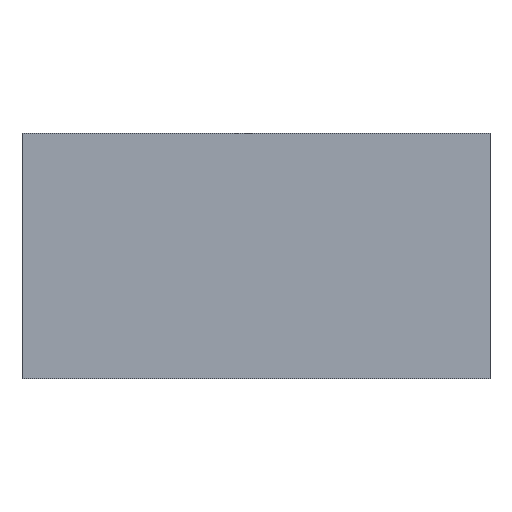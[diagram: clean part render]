
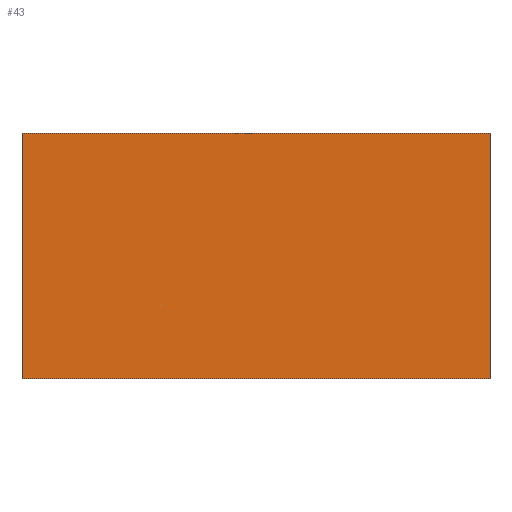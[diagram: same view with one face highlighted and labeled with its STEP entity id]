
A CAD part, front view. The second image highlights one B-rep face of the part: STEP entity #43.
In plain terms, the highlighted planar face has unit normal (0, -1, 0).
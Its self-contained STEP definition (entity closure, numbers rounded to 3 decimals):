
#43 = ADVANCED_FACE('',(#44),#58,.T.);
#44 = FACE_BOUND('',#45,.T.);
#45 = EDGE_LOOP('',(#46,#81,#109,#137));
#46 = ORIENTED_EDGE('',*,*,#47,.T.);
#47 = EDGE_CURVE('',#48,#50,#52,.T.);
#48 = VERTEX_POINT('',#49);
#49 = CARTESIAN_POINT('',(0.,0.,0.));
#50 = VERTEX_POINT('',#51);
#51 = CARTESIAN_POINT('',(0.,0.,-220.));
#52 = SURFACE_CURVE('',#53,(#57,#69),.PCURVE_S1.);
#53 = LINE('',#54,#55);
#54 = CARTESIAN_POINT('',(0.,0.,0.));
#55 = VECTOR('',#56,1.);
#56 = DIRECTION('',(-0.,-0.,-1.));
#57 = PCURVE('',#58,#63);
#58 = PLANE('',#59);
#59 = AXIS2_PLACEMENT_3D('',#60,#61,#62);
#60 = CARTESIAN_POINT('',(0.,0.,0.));
#61 = DIRECTION('',(0.,-1.,0.));
#62 = DIRECTION('',(1.,0.,0.));
#63 = DEFINITIONAL_REPRESENTATION('',(#64),#68);
#64 = LINE('',#65,#66);
#65 = CARTESIAN_POINT('',(0.,0.));
#66 = VECTOR('',#67,1.);
#67 = DIRECTION('',(0.,-1.));
#68 = ( GEOMETRIC_REPRESENTATION_CONTEXT(2) 
PARAMETRIC_REPRESENTATION_CONTEXT() REPRESENTATION_CONTEXT('2D SPACE',''
  ) );
#69 = PCURVE('',#70,#75);
#70 = PLANE('',#71);
#71 = AXIS2_PLACEMENT_3D('',#72,#73,#74);
#72 = CARTESIAN_POINT('',(0.,560.,0.));
#73 = DIRECTION('',(-1.,0.,0.));
#74 = DIRECTION('',(0.,-1.,0.));
#75 = DEFINITIONAL_REPRESENTATION('',(#76),#80);
#76 = LINE('',#77,#78);
#77 = CARTESIAN_POINT('',(560.,0.));
#78 = VECTOR('',#79,1.);
#79 = DIRECTION('',(0.,-1.));
#80 = ( GEOMETRIC_REPRESENTATION_CONTEXT(2) 
PARAMETRIC_REPRESENTATION_CONTEXT() REPRESENTATION_CONTEXT('2D SPACE',''
  ) );
#81 = ORIENTED_EDGE('',*,*,#82,.T.);
#82 = EDGE_CURVE('',#50,#83,#85,.T.);
#83 = VERTEX_POINT('',#84);
#84 = CARTESIAN_POINT('',(420.,0.,-220.));
#85 = SURFACE_CURVE('',#86,(#90,#97),.PCURVE_S1.);
#86 = LINE('',#87,#88);
#87 = CARTESIAN_POINT('',(0.,0.,-220.));
#88 = VECTOR('',#89,1.);
#89 = DIRECTION('',(1.,0.,0.));
#90 = PCURVE('',#58,#91);
#91 = DEFINITIONAL_REPRESENTATION('',(#92),#96);
#92 = LINE('',#93,#94);
#93 = CARTESIAN_POINT('',(0.,-220.));
#94 = VECTOR('',#95,1.);
#95 = DIRECTION('',(1.,0.));
#96 = ( GEOMETRIC_REPRESENTATION_CONTEXT(2) 
PARAMETRIC_REPRESENTATION_CONTEXT() REPRESENTATION_CONTEXT('2D SPACE',''
  ) );
#97 = PCURVE('',#98,#103);
#98 = PLANE('',#99);
#99 = AXIS2_PLACEMENT_3D('',#100,#101,#102);
#100 = CARTESIAN_POINT('',(210.,280.,-220.));
#101 = DIRECTION('',(0.,0.,1.));
#102 = DIRECTION('',(1.,0.,-0.));
#103 = DEFINITIONAL_REPRESENTATION('',(#104),#108);
#104 = LINE('',#105,#106);
#105 = CARTESIAN_POINT('',(-210.,-280.));
#106 = VECTOR('',#107,1.);
#107 = DIRECTION('',(1.,0.));
#108 = ( GEOMETRIC_REPRESENTATION_CONTEXT(2) 
PARAMETRIC_REPRESENTATION_CONTEXT() REPRESENTATION_CONTEXT('2D SPACE',''
  ) );
#109 = ORIENTED_EDGE('',*,*,#110,.F.);
#110 = EDGE_CURVE('',#111,#83,#113,.T.);
#111 = VERTEX_POINT('',#112);
#112 = CARTESIAN_POINT('',(420.,0.,0.));
#113 = SURFACE_CURVE('',#114,(#118,#125),.PCURVE_S1.);
#114 = LINE('',#115,#116);
#115 = CARTESIAN_POINT('',(420.,0.,0.));
#116 = VECTOR('',#117,1.);
#117 = DIRECTION('',(-0.,-0.,-1.));
#118 = PCURVE('',#58,#119);
#119 = DEFINITIONAL_REPRESENTATION('',(#120),#124);
#120 = LINE('',#121,#122);
#121 = CARTESIAN_POINT('',(420.,0.));
#122 = VECTOR('',#123,1.);
#123 = DIRECTION('',(0.,-1.));
#124 = ( GEOMETRIC_REPRESENTATION_CONTEXT(2) 
PARAMETRIC_REPRESENTATION_CONTEXT() REPRESENTATION_CONTEXT('2D SPACE',''
  ) );
#125 = PCURVE('',#126,#131);
#126 = PLANE('',#127);
#127 = AXIS2_PLACEMENT_3D('',#128,#129,#130);
#128 = CARTESIAN_POINT('',(420.,0.,0.));
#129 = DIRECTION('',(1.,0.,0.));
#130 = DIRECTION('',(-0.,1.,0.));
#131 = DEFINITIONAL_REPRESENTATION('',(#132),#136);
#132 = LINE('',#133,#134);
#133 = CARTESIAN_POINT('',(0.,0.));
#134 = VECTOR('',#135,1.);
#135 = DIRECTION('',(0.,-1.));
#136 = ( GEOMETRIC_REPRESENTATION_CONTEXT(2) 
PARAMETRIC_REPRESENTATION_CONTEXT() REPRESENTATION_CONTEXT('2D SPACE',''
  ) );
#137 = ORIENTED_EDGE('',*,*,#138,.F.);
#138 = EDGE_CURVE('',#48,#111,#139,.T.);
#139 = SURFACE_CURVE('',#140,(#144,#151),.PCURVE_S1.);
#140 = LINE('',#141,#142);
#141 = CARTESIAN_POINT('',(0.,0.,0.));
#142 = VECTOR('',#143,1.);
#143 = DIRECTION('',(1.,0.,0.));
#144 = PCURVE('',#58,#145);
#145 = DEFINITIONAL_REPRESENTATION('',(#146),#150);
#146 = LINE('',#147,#148);
#147 = CARTESIAN_POINT('',(0.,0.));
#148 = VECTOR('',#149,1.);
#149 = DIRECTION('',(1.,0.));
#150 = ( GEOMETRIC_REPRESENTATION_CONTEXT(2) 
PARAMETRIC_REPRESENTATION_CONTEXT() REPRESENTATION_CONTEXT('2D SPACE',''
  ) );
#151 = PCURVE('',#152,#157);
#152 = PLANE('',#153);
#153 = AXIS2_PLACEMENT_3D('',#154,#155,#156);
#154 = CARTESIAN_POINT('',(210.,280.,0.));
#155 = DIRECTION('',(0.,0.,1.));
#156 = DIRECTION('',(1.,0.,-0.));
#157 = DEFINITIONAL_REPRESENTATION('',(#158),#162);
#158 = LINE('',#159,#160);
#159 = CARTESIAN_POINT('',(-210.,-280.));
#160 = VECTOR('',#161,1.);
#161 = DIRECTION('',(1.,0.));
#162 = ( GEOMETRIC_REPRESENTATION_CONTEXT(2) 
PARAMETRIC_REPRESENTATION_CONTEXT() REPRESENTATION_CONTEXT('2D SPACE',''
  ) );
